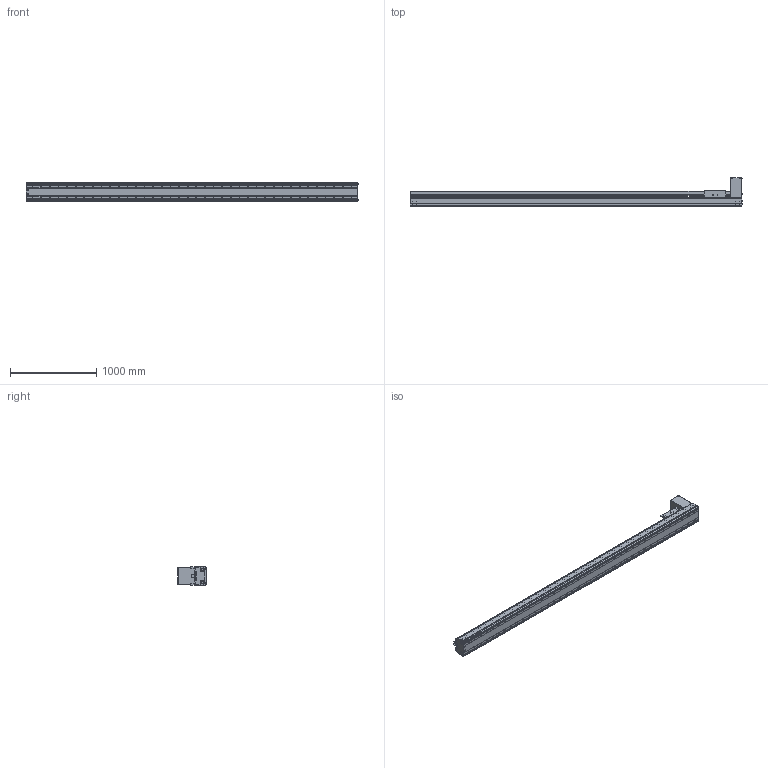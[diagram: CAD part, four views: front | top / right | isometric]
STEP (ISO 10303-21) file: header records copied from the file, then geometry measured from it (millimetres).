
FILE_DESCRIPTION((''),'2;1');
FILE_NAME('BE60J-BT-M19N-W35_IGS_PRT','2017-06-18T',(' '),(''),'PRO/ENGINEER BY PARAMETRIC TECHNOLOGY CORPORATION, 2015030','PRO/ENGINEER BY PARAMETRIC TECHNOLOGY CORPORATION, 2015030','');
FILE_SCHEMA(('CONFIG_CONTROL_DESIGN'));
Products named in the file (1): BE60J-BT-M19N-W35_IGS_PRT
Bounding box: 3854.4 x 327.5 x 214 mm (x, y, z)
Volume: 30370164.9 mm3; surface area: 8927215.6 mm2
Topology: 2 solids, 437 shells, 2955 faces, 8535 edges, 5761 vertices
Faces by surface type: cylinder 1540, plane 977, cone 342, sphere 48, torus 48
Entity records: 101005 total; most frequent: CARTESIAN_POINT 24333, DIRECTION 15856, ORIENTED_EDGE 15070, EDGE_CURVE 8263, AXIS2_PLACEMENT_3D 6128, VERTEX_POINT 5722, EDGE_LOOP 3679, VECTOR 3600
